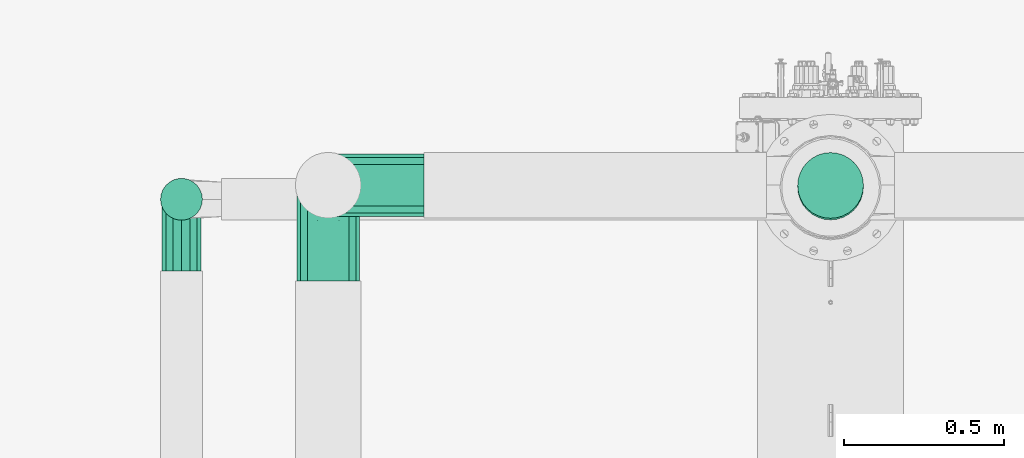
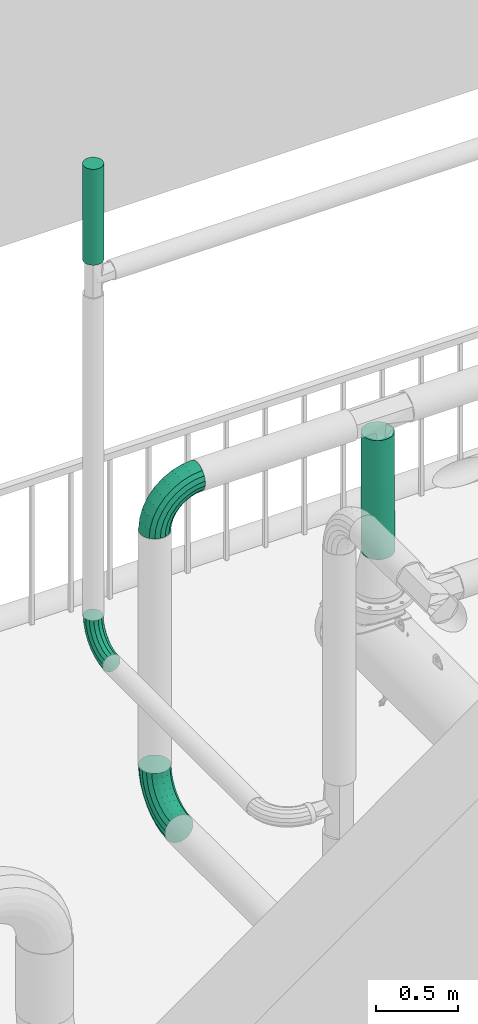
# One storey, part 19 of 28: 3 flow fittings, 2 flow segments.
"""IFC2X3 building model written with IfcOpenShell, lengths in millimetres."""

from ifc_helpers import new_model, entity, si_unit, converted_unit, direction, frame, frame_2d, origin, origin_2d_with_axis, place, context, subcontext, project, spatial, circle, extrude, faceted_brep, source, transform, mapped, material, type_object, type_shapes, element, save


model = new_model("IFC2X3")

# Units and contexts
model_context = context("Model", 3, precision=0.01, world=origin(), true_north=direction((6.123031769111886e-17, 1.0)))
body_context = subcontext(model_context, "Body", "Model", "MODEL_VIEW")
ifc_project = project(units=[si_unit("LENGTHUNIT", "METRE", prefix="MILLI"), converted_unit("PLANEANGLEUNIT", "DEGREE", entity("IfcPlaneAngleMeasure", 0.017453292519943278), si_unit("PLANEANGLEUNIT", "RADIAN"), dimensions=[0, 0, 0, 0, 0, 0, 0]), si_unit("AREAUNIT", "SQUARE_METRE")], contexts=[model_context])

# Site, building, storey
site_placement = place(None, frame((7776.576483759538, 118.3519876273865, 0.0)))
site = spatial("IfcSite", under=ifc_project, at=site_placement, Name="Default", CompositionType="ELEMENT")
building_placement = place(site_placement, origin())
building = spatial("IfcBuilding", under=site, at=building_placement, Name="Bygning (endres i Project Information)", CompositionType="ELEMENT")
storey_placement = place(building_placement, frame((0.0, 0.0, 14000.0)))
storey = spatial("IfcBuildingStorey", under=building, at=storey_placement, Name="Plan U1 - Arbeid", CompositionType="ELEMENT", Elevation=14000.000000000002)

# Flow segments
ifc_material = material(Name="SS 2343 Rustfritt stål, prosessrør, generisk")
pipe_segment_type = type_object("IfcPipeSegmentType", Name="Pipe Types:AISI 304L Rustfritt", PredefinedType="NOTDEFINED", material=ifc_material)
flow_segment_1_placement = place(storey_placement, origin())
element("IfcFlowSegment", 1, at=flow_segment_1_placement, inside=storey, type_object=pipe_segment_type, Name="Pipe Types:AISI 304L Rustfritt", ObjectType="Pipe Types:AISI 304L Rustfritt", context=body_context, shape_type="SweptSolid", body=[
    extrude(circle(Radius=103.0, at=frame_2d((0.0, -4.331404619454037e-12), x_axis=(1.0, 0.0))), frame((27667.696048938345, 28424.418287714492, 1551.589620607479), z_axis=(0.0, 0.005431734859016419, 0.9999852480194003), x_axis=(-1.0, 0.0, 0.0)), (0.0, 0.0, 1.0), 886.435507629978),
])
flow_segment_2_placement = place(storey_placement, origin())
element("IfcFlowSegment", 2, at=flow_segment_2_placement, inside=storey, type_object=pipe_segment_type, Name="Pipe Types:AISI 304L Rustfritt", ObjectType="Pipe Types:AISI 304L Rustfritt", context=body_context, shape_type="SweptSolid", body=[
    extrude(circle(Radius=65.5, at=origin_2d_with_axis()), frame((25634.00137486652, 28385.82368856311, 4459.5), z_axis=(0.0, 0.0, 1.0), x_axis=(-1.0, 0.0, 0.0)), (0.0, 0.0, 1.0), 715.9999999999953),
])

# Flow fittings
pipe_fitting_type_1 = type_object("IfcPipeFittingType", Name="VA_prosess_rustfritt_bend_D+100:VA_prosess_rustfritt_bend_D+100", PredefinedType="NOTDEFINED", material=ifc_material)
shared_shape_1 = source(origin(), body_context, "Body", "Brep", [
    faceted_brep([(-221.96387119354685, -92.314112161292, 0.0), (-223.1404097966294, -86.39925317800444, 34.202014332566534), (-300.0, -93.96926207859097, 34.202014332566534), (-300.0, -100.0, 0.0), (-226.52811768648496, -69.36809551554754, 64.27876096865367), (-300.0, -76.60444431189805, 64.27876096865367), (-231.71838729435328, -43.274848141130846, 86.60254037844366), (-300.0, -50.0, 86.60254037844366), (-238.08519550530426, -11.266741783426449, 98.48077530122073), (-300.0, -17.36481776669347, 98.48077530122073), (-244.86061128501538, 22.79557354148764, 98.48077530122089), (-300.0, 17.36481776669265, 98.48077530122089), (-251.22741949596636, 54.80367989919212, 86.60254037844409), (-300.0, 50.0, 86.60254037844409), (-256.41768910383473, 80.89692727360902, 64.27876096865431), (-300.0, 76.60444431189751, 64.27876096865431), (-259.8053969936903, 97.92808493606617, 34.202014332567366), (-300.0, 93.96926207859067, 34.202014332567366), (-260.9819355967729, 103.84294391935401, 0.0), (-300.0, 100.0, 0.0), (-259.8053969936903, 97.92808493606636, -34.20201433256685), (-300.0, 93.96926207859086, -34.20201433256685), (-256.4176891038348, 80.89692727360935, -64.2787609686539), (-300.0, 76.60444431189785, -64.2787609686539), (-251.22741949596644, 54.80367989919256, -86.60254037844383), (-300.0, 50.0, -86.60254037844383), (-244.86061128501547, 22.795573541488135, -98.48077530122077), (-300.0, 17.364817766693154, -98.48077530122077), (-238.08519550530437, -11.26674178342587, -98.48077530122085), (-300.0, -17.36481776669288, -98.48077530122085), (-231.71838729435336, -43.27484814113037, -86.60254037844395), (-300.0, -50.0, -86.60254037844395), (-226.52811768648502, -69.3680955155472, -64.27876096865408), (-300.0, -76.6044443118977, -64.27876096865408), (-223.14040979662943, -86.39925317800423, -34.2020143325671), (-300.0, -93.96926207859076, -34.2020143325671), (-146.9266270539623, -69.55181300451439, 0.0), (-149.2344905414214, -63.98013767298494, 34.202014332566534), (-155.87971860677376, -47.937137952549, 64.27876096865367), (-166.06079867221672, -23.357836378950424, 86.60254037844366), (-178.54974222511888, 6.79314052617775, 98.48077530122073), (-191.8401983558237, 38.87913996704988, 98.48077530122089), (-204.32914190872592, 69.03011687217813, 86.60254037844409), (-214.51022197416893, 93.6094184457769, 64.27876096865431), (-221.15545003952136, 109.65241816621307, 34.202014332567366), (-223.46331352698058, 115.2240934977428, 0.0), (-221.15545003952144, 109.65241816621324, -34.20201433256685), (-214.51022197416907, 93.60941844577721, -64.2787609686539), (-204.3291419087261, 69.03011687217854, -86.60254037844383), (-191.8401983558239, 38.87913996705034, -98.48077530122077), (-178.5497422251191, 6.7931405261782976, -98.48077530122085), (-166.0607986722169, -23.357836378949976, -86.60254037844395), (-155.8797186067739, -47.937137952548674, -64.27876096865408), (-149.23449054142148, -63.98013767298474, -34.2020143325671), (-77.77190679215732, -32.58784492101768, 0.0), (-81.12240526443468, -27.573469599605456, 34.202014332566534), (-90.76978111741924, -13.135151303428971, 64.27876096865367), (-105.5504184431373, 8.985635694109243, 86.60254037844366), (-123.68155424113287, 36.120798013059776, 98.48077530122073), (-142.97630594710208, 64.997434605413, 98.48077530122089), (-161.1074417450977, 92.13259692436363, 86.60254037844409), (-175.88807907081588, 114.253383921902, 64.27876096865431), (-185.53545492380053, 128.69170221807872, 34.202014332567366), (-188.88595339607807, 133.70607753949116, 0.0), (-185.53545492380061, 128.69170221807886, -34.20201433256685), (-175.88807907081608, 114.25338392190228, -64.2787609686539), (-161.10744174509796, 92.132596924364, -86.60254037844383), (-142.97630594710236, 64.99743460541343, -98.48077530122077), (-123.68155424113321, 36.120798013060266, -98.48077530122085), (-105.55041844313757, 8.985635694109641, -86.60254037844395), (-90.76978111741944, -13.135151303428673, -64.27876096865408), (-81.12240526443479, -27.573469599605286, -34.2020143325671), (-17.15728752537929, 17.157287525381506, 0.0), (-21.421663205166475, 21.42166320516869, 34.202014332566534), (-33.70044360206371, 33.700443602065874, 64.27876096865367), (-52.51262658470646, 52.512626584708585, 86.60254037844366), (-75.58918524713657, 75.58918524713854, 98.48077530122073), (-100.14674604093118, 100.14674604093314, 98.48077530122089), (-123.22330470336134, 123.22330470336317, 86.60254037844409), (-142.03548768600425, 142.035487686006, 64.27876096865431), (-154.3142680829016, 154.3142680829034, 34.202014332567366), (-158.578643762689, 158.57864376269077, 0.0), (-154.31426808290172, 154.31426808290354, -34.20201433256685), (-142.03548768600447, 142.03548768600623, -64.2787609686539), (-123.22330470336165, 123.2233047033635, -86.60254037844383), (-100.14674604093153, 100.1467460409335, -98.48077530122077), (-75.58918524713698, 75.58918524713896, -98.48077530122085), (-52.51262658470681, 52.512626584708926, -86.60254037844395), (-33.700443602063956, 33.70044360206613, -64.27876096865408), (-21.42166320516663, 21.421663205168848, -34.2020143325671), (32.58784492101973, 77.77190679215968, 0.0), (27.573469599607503, 81.12240526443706, 34.202014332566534), (13.135151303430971, 90.76978111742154, 64.27876096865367), (-8.985635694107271, 105.55041844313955, 86.60254037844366), (-36.1207980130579, 123.68155424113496, 98.48077530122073), (-64.99743460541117, 142.97630594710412, 98.48077530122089), (-92.13259692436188, 161.10744174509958, 86.60254037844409), (-114.25338392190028, 175.88807907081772, 64.27876096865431), (-128.69170221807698, 185.53545492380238, 34.202014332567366), (-133.70607753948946, 188.8859533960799, 0.0), (-128.69170221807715, 185.5354549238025, -34.20201433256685), (-114.25338392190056, 175.8880790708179, -64.2787609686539), (-92.13259692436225, 161.10744174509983, -86.60254037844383), (-64.99743460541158, 142.9763059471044, -98.48077530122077), (-36.12079801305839, 123.68155424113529, -98.48077530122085), (-8.985635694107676, 105.55041844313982, -86.60254037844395), (13.13515130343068, 90.76978111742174, -64.27876096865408), (27.573469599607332, 81.12240526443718, -34.2020143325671), (69.55181300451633, 146.92662705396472, 0.0), (63.98013767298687, 149.23449054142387, 34.202014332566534), (47.937137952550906, 155.87971860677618, 64.27876096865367), (23.357836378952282, 166.06079867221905, 86.60254037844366), (-6.793140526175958, 178.54974222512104, 98.48077530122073), (-38.879139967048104, 191.8401983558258, 98.48077530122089), (-69.03011687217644, 204.32914190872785, 86.60254037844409), (-93.60941844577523, 214.5102219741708, 64.27876096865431), (-109.65241816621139, 221.15545003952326, 34.202014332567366), (-115.22409349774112, 223.46331352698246, 0.0), (-109.65241816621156, 221.15545003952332, -34.20201433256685), (-93.60941844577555, 214.51022197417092, -64.2787609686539), (-69.03011687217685, 204.32914190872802, -86.60254037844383), (-38.87913996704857, 191.840198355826, -98.48077530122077), (-6.793140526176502, 178.54974222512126, -98.48077530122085), (23.357836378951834, 166.06079867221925, -86.60254037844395), (47.93713795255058, 155.87971860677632, -64.27876096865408), (63.98013767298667, 149.23449054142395, -34.2020143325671), (92.31411216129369, 221.96387119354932, 0.0), (86.39925317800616, 223.1404097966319, 34.202014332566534), (69.36809551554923, 226.52811768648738, 64.27876096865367), (43.27484814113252, 231.71838729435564, 86.60254037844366), (11.266741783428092, 238.08519550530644, 98.48077530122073), (-22.795573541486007, 244.86061128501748, 98.48077530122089), (-54.80367989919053, 251.22741949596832, 86.60254037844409), (-80.89692727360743, 256.4176891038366, 64.27876096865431), (-97.9280849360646, 259.80539699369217, 34.202014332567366), (-103.84294391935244, 260.9819355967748, 0.0), (-97.92808493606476, 259.8053969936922, -34.20201433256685), (-80.89692727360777, 256.41768910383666, -64.2787609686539), (-54.80367989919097, 251.2274194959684, -86.60254037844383), (-22.795573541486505, 244.8606112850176, -98.48077530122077), (11.266741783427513, 238.08519550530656, -98.48077530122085), (43.27484814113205, 231.71838729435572, -86.60254037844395), (69.36809551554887, 226.52811768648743, -64.27876096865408), (86.39925317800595, 223.14040979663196, -34.2020143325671), (100.0, 300.0, 0.0), (93.96926207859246, 300.0, 34.202014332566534), (76.60444431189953, 300.0, 64.27876096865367), (50.0, 300.0, 86.60254037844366), (17.36481776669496, 300.0, 98.48077530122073), (-17.36481776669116, 300.0, 98.48077530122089), (-50.0, 300.0, 86.60254037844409), (-76.60444431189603, 300.0, 64.27876096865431), (-93.9692620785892, 300.0, 34.202014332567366), (-100.0, 300.0, 0.0), (-93.96926207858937, 300.0, -34.20201433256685), (-76.60444431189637, 300.0, -64.2787609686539), (-50.0, 300.0, -86.60254037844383), (-17.364817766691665, 300.0, -98.48077530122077), (17.36481776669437, 300.0, -98.48077530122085), (50.0, 300.0, -86.60254037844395), (76.60444431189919, 300.0, -64.27876096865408), (93.96926207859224, 300.0, -34.2020143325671)], [[[0, 1, 2, 3]], [[1, 4, 5, 2]], [[4, 6, 7, 5]], [[6, 8, 9, 7]], [[8, 10, 11, 9]], [[10, 12, 13, 11]], [[12, 14, 15, 13]], [[14, 16, 17, 15]], [[16, 18, 19, 17]], [[18, 20, 21, 19]], [[20, 22, 23, 21]], [[22, 24, 25, 23]], [[24, 26, 27, 25]], [[26, 28, 29, 27]], [[28, 30, 31, 29]], [[30, 32, 33, 31]], [[32, 34, 35, 33]], [[34, 0, 3, 35]], [[36, 37, 1, 0]], [[37, 38, 4, 1]], [[38, 39, 6, 4]], [[39, 40, 8, 6]], [[40, 41, 10, 8]], [[41, 42, 12, 10]], [[42, 43, 14, 12]], [[43, 44, 16, 14]], [[44, 45, 18, 16]], [[45, 46, 20, 18]], [[46, 47, 22, 20]], [[47, 48, 24, 22]], [[48, 49, 26, 24]], [[49, 50, 28, 26]], [[50, 51, 30, 28]], [[51, 52, 32, 30]], [[52, 53, 34, 32]], [[53, 36, 0, 34]], [[54, 55, 37, 36]], [[55, 56, 38, 37]], [[56, 57, 39, 38]], [[57, 58, 40, 39]], [[58, 59, 41, 40]], [[59, 60, 42, 41]], [[60, 61, 43, 42]], [[61, 62, 44, 43]], [[62, 63, 45, 44]], [[63, 64, 46, 45]], [[64, 65, 47, 46]], [[65, 66, 48, 47]], [[66, 67, 49, 48]], [[67, 68, 50, 49]], [[68, 69, 51, 50]], [[69, 70, 52, 51]], [[70, 71, 53, 52]], [[71, 54, 36, 53]], [[72, 73, 55, 54]], [[73, 74, 56, 55]], [[74, 75, 57, 56]], [[75, 76, 58, 57]], [[76, 77, 59, 58]], [[77, 78, 60, 59]], [[78, 79, 61, 60]], [[79, 80, 62, 61]], [[80, 81, 63, 62]], [[81, 82, 64, 63]], [[82, 83, 65, 64]], [[83, 84, 66, 65]], [[84, 85, 67, 66]], [[85, 86, 68, 67]], [[86, 87, 69, 68]], [[87, 88, 70, 69]], [[88, 89, 71, 70]], [[89, 72, 54, 71]], [[90, 91, 73, 72]], [[91, 92, 74, 73]], [[92, 93, 75, 74]], [[93, 94, 76, 75]], [[94, 95, 77, 76]], [[95, 96, 78, 77]], [[96, 97, 79, 78]], [[97, 98, 80, 79]], [[98, 99, 81, 80]], [[99, 100, 82, 81]], [[100, 101, 83, 82]], [[101, 102, 84, 83]], [[102, 103, 85, 84]], [[103, 104, 86, 85]], [[104, 105, 87, 86]], [[105, 106, 88, 87]], [[106, 107, 89, 88]], [[107, 90, 72, 89]], [[108, 109, 91, 90]], [[109, 110, 92, 91]], [[110, 111, 93, 92]], [[111, 112, 94, 93]], [[112, 113, 95, 94]], [[113, 114, 96, 95]], [[114, 115, 97, 96]], [[115, 116, 98, 97]], [[116, 117, 99, 98]], [[117, 118, 100, 99]], [[118, 119, 101, 100]], [[119, 120, 102, 101]], [[120, 121, 103, 102]], [[121, 122, 104, 103]], [[122, 123, 105, 104]], [[123, 124, 106, 105]], [[124, 125, 107, 106]], [[125, 108, 90, 107]], [[126, 127, 109, 108]], [[127, 128, 110, 109]], [[128, 129, 111, 110]], [[129, 130, 112, 111]], [[130, 131, 113, 112]], [[131, 132, 114, 113]], [[132, 133, 115, 114]], [[133, 134, 116, 115]], [[134, 135, 117, 116]], [[135, 136, 118, 117]], [[136, 137, 119, 118]], [[137, 138, 120, 119]], [[138, 139, 121, 120]], [[139, 140, 122, 121]], [[140, 141, 123, 122]], [[141, 142, 124, 123]], [[142, 143, 125, 124]], [[143, 126, 108, 125]], [[144, 145, 127, 126]], [[145, 146, 128, 127]], [[146, 147, 129, 128]], [[147, 148, 130, 129]], [[148, 149, 131, 130]], [[149, 150, 132, 131]], [[150, 151, 133, 132]], [[151, 152, 134, 133]], [[152, 153, 135, 134]], [[153, 154, 136, 135]], [[154, 155, 137, 136]], [[155, 156, 138, 137]], [[156, 157, 139, 138]], [[157, 158, 140, 139]], [[158, 159, 141, 140]], [[159, 160, 142, 141]], [[160, 161, 143, 142]], [[161, 144, 126, 143]], [[3, 2, 5, 7, 9, 11, 13, 15, 17, 19, 21, 23, 25, 27, 29, 31, 33, 35]], [[161, 160, 159, 158, 157, 156, 155, 154, 153, 152, 151, 150, 149, 148, 147, 146, 145, 144]]]),
])
type_shapes(pipe_fitting_type_1, [shared_shape_1])
for number, where, z_axis, x_axis in (
    (3, (26093.826249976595, 28429.85394005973, 2552.2960799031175), (0.0, -1.0, 0.0), (-1.0, 0.0, 0.0)),
    (4, (26093.826249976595, 28429.853940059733, 203.0), (-1.0, 0.0, 0.0), (0.0, 0.0, -1.0)),
):
    element("IfcFlowFitting", number, at=place(storey_placement, frame(where, z_axis=z_axis, x_axis=x_axis)), inside=storey, type_object=pipe_fitting_type_1, material=ifc_material, Name="VA_prosess_rustfritt_bend_D+100:VA_prosess_rustfritt_bend_D+100", ObjectType="VA_prosess_rustfritt_bend_D+100:VA_prosess_rustfritt_bend_D+100", context=body_context, shape_type="MappedRepresentation", body=[
        mapped(shared_shape_1, transform((0.0, 0.0, 0.0), scale=1.0)),
    ])
pipe_fitting_type_2 = type_object("IfcPipeFittingType", Name="VA_prosess_rustfritt_bend_D+100:VA_prosess_rustfritt_bend_D+100", PredefinedType="NOTDEFINED", material=ifc_material)
shared_shape_2 = source(origin(), body_context, "Body", "Brep", [
    faceted_brep([(-161.02523148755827, -55.291774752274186, 0.0), (-162.4025127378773, -49.25751132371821, 27.117733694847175), (-225.0, -56.310554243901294, 27.117733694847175), (-225.0, -62.50000000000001, 0.0), (-166.26156904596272, -32.34988091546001, 48.86446765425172), (-225.0, -38.968112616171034, 48.86446765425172), (-171.83806698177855, -7.917647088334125, 60.93299451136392), (-225.0, -13.907558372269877, 60.93299451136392), (-178.0275127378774, 19.20008660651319, 60.93299451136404), (-225.0, 13.90755837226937, 60.93299451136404), (-183.60401067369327, 43.632320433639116, 48.86446765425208), (-225.0, 38.96811261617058, 48.86446765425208), (-187.46306698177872, 60.53995084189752, 27.117733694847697), (-225.0, 56.31055424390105, 27.117733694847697), (-188.8403482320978, 66.57421427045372, 0.0), (-225.0, 62.50000000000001, 0.0), (-187.46306698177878, 60.53995084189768, -27.117733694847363), (-225.0, 56.31055424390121, -27.117733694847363), (-183.60401067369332, 43.63232043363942, -48.86446765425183), (-225.0, 38.96811261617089, -48.86446765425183), (-178.0275127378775, 19.20008660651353, -60.932994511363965), (-225.0, 13.90755837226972, -60.932994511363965), (-171.8380669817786, -7.917647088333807, -60.932994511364), (-225.0, -13.907558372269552, -60.932994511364), (-166.26156904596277, -32.34988091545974, -48.864467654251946), (-225.0, -38.96811261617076, -48.864467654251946), (-162.40251273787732, -49.25751132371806, -27.11773369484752), (-225.0, -56.31055424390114, -27.11773369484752), (-100.25842500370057, -34.028549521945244, 0.0), (-102.94392487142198, -28.452051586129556, 27.117733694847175), (-110.46852829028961, -12.82705158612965, 48.86446765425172), (-121.34189526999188, 9.751727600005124, 60.93299451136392), (-133.41042212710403, 34.812281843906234, 60.93299451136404), (-144.28378910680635, 57.39106103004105, 48.86446765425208), (-151.80839252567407, 73.01606103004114, 27.117733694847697), (-154.49389239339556, 78.59255896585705, 0.0), (-151.80839252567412, 73.01606103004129, -27.117733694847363), (-144.28378910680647, 57.391061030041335, -48.86446765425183), (-133.4104221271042, 34.812281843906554, -60.932994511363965), (-121.34189526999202, 9.751727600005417, -60.932994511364), (-110.46852829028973, -12.827051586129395, -48.864467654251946), (-102.94392487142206, -28.452051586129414, -27.11773369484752), (-45.74668196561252, 0.22344879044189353, 0.0), (-49.60573827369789, 5.06255234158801, 27.117733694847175), (-60.4185737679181, 18.621419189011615, 48.86446765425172), (-76.04357376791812, 38.2145494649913, 60.93299451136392), (-93.3860153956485, 59.96128342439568, 60.93299451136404), (-109.01101539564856, 79.5544137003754, 48.86446765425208), (-119.8238508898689, 93.11328054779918, 27.117733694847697), (-123.68290719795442, 97.95238409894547, 0.0), (-119.82385088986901, 93.11328054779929, -27.117733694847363), (-109.01101539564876, 79.55441370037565, -48.86446765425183), (-93.38601539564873, 59.96128342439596, -60.932994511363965), (-76.04357376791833, 38.214549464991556, -60.932994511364), (-60.418573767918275, 18.62141918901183, -48.864467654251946), (-49.60573827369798, 5.06255234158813, -27.11773369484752), (-0.22344879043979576, 45.7466819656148, 0.0), (-5.062552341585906, 49.60573827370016, 27.117733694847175), (-18.621419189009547, 60.41857376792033, 48.86446765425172), (-38.2145494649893, 76.04357376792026, 60.93299451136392), (-59.96128342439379, 93.38601539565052, 60.93299451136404), (-79.55441370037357, 109.01101539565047, 48.86446765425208), (-93.11328054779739, 119.82385088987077, 27.117733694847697), (-97.9523840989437, 123.6829071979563, 0.0), (-93.1132805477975, 119.82385088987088, -27.117733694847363), (-79.55441370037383, 109.01101539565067, -48.86446765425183), (-59.96128342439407, 93.38601539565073, -60.932994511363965), (-38.21454946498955, 76.04357376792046, -60.932994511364), (-18.621419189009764, 60.418573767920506, -48.864467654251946), (-5.062552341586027, 49.60573827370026, -27.11773369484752), (34.02854952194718, 100.25842500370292, 0.0), (28.452051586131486, 102.94392487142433, 27.117733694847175), (12.827051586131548, 110.4685282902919, 48.86446765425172), (-9.751727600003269, 121.34189526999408, 60.93299451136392), (-34.81228184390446, 133.4104221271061, 60.93299451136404), (-57.39106103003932, 144.28378910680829, 48.86446765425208), (-73.01606103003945, 151.80839252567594, 27.117733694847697), (-78.59255896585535, 154.4938923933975, 0.0), (-73.0160610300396, 151.80839252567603, -27.117733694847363), (-57.3910610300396, 144.28378910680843, -48.86446765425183), (-34.81228184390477, 133.41042212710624, -60.932994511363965), (-9.751727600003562, 121.34189526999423, -60.932994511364), (12.827051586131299, 110.46852829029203, -48.864467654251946), (28.452051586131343, 102.9439248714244, -27.11773369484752), (55.29177475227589, 161.0252314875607, 0.0), (49.257511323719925, 162.40251273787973, 27.117733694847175), (32.34988091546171, 166.2615690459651, 48.86446765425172), (7.917647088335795, 171.8380669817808, 60.93299451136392), (-19.200086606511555, 178.02751273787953, 60.93299451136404), (-43.63232043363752, 183.60401067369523, 48.86446765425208), (-60.539950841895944, 187.46306698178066, 27.117733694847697), (-66.57421427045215, 188.84034823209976, 0.0), (-60.53995084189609, 187.46306698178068, -27.117733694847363), (-43.63232043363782, 183.6040106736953, -48.86446765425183), (-19.2000866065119, 178.02751273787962, -60.932994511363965), (7.917647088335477, 171.83806698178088, -60.932994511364), (32.34988091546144, 166.26156904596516, -48.864467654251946), (49.257511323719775, 162.40251273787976, -27.11773369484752), (62.500000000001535, 225.0, 0.0), (56.31055424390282, 225.0, 27.117733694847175), (38.96811261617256, 225.0, 48.86446765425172), (13.9075583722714, 225.0, 60.93299451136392), (-13.907558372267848, 225.0, 60.93299451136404), (-38.96811261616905, 225.0, 48.86446765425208), (-56.310554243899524, 225.0, 27.117733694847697), (-62.49999999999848, 225.0, 0.0), (-56.31055424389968, 225.0, -27.117733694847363), (-38.968112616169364, 225.0, -48.86446765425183), (-13.907558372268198, 225.0, -60.932994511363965), (13.907558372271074, 225.0, -60.932994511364), (38.968112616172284, 225.0, -48.864467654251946), (56.310554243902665, 225.0, -27.11773369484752)], [[[0, 1, 2, 3]], [[1, 4, 5, 2]], [[4, 6, 7, 5]], [[6, 8, 9, 7]], [[8, 10, 11, 9]], [[10, 12, 13, 11]], [[12, 14, 15, 13]], [[14, 16, 17, 15]], [[16, 18, 19, 17]], [[18, 20, 21, 19]], [[20, 22, 23, 21]], [[22, 24, 25, 23]], [[24, 26, 27, 25]], [[26, 0, 3, 27]], [[28, 29, 1, 0]], [[29, 30, 4, 1]], [[30, 31, 6, 4]], [[31, 32, 8, 6]], [[32, 33, 10, 8]], [[33, 34, 12, 10]], [[34, 35, 14, 12]], [[35, 36, 16, 14]], [[36, 37, 18, 16]], [[37, 38, 20, 18]], [[38, 39, 22, 20]], [[39, 40, 24, 22]], [[40, 41, 26, 24]], [[41, 28, 0, 26]], [[42, 43, 29, 28]], [[43, 44, 30, 29]], [[44, 45, 31, 30]], [[45, 46, 32, 31]], [[46, 47, 33, 32]], [[47, 48, 34, 33]], [[48, 49, 35, 34]], [[49, 50, 36, 35]], [[50, 51, 37, 36]], [[51, 52, 38, 37]], [[52, 53, 39, 38]], [[53, 54, 40, 39]], [[54, 55, 41, 40]], [[55, 42, 28, 41]], [[56, 57, 43, 42]], [[57, 58, 44, 43]], [[58, 59, 45, 44]], [[59, 60, 46, 45]], [[60, 61, 47, 46]], [[61, 62, 48, 47]], [[62, 63, 49, 48]], [[63, 64, 50, 49]], [[64, 65, 51, 50]], [[65, 66, 52, 51]], [[66, 67, 53, 52]], [[67, 68, 54, 53]], [[68, 69, 55, 54]], [[69, 56, 42, 55]], [[70, 71, 57, 56]], [[71, 72, 58, 57]], [[72, 73, 59, 58]], [[73, 74, 60, 59]], [[74, 75, 61, 60]], [[75, 76, 62, 61]], [[76, 77, 63, 62]], [[77, 78, 64, 63]], [[78, 79, 65, 64]], [[79, 80, 66, 65]], [[80, 81, 67, 66]], [[81, 82, 68, 67]], [[82, 83, 69, 68]], [[83, 70, 56, 69]], [[84, 85, 71, 70]], [[85, 86, 72, 71]], [[86, 87, 73, 72]], [[87, 88, 74, 73]], [[88, 89, 75, 74]], [[89, 90, 76, 75]], [[90, 91, 77, 76]], [[91, 92, 78, 77]], [[92, 93, 79, 78]], [[93, 94, 80, 79]], [[94, 95, 81, 80]], [[95, 96, 82, 81]], [[96, 97, 83, 82]], [[97, 84, 70, 83]], [[98, 99, 85, 84]], [[99, 100, 86, 85]], [[100, 101, 87, 86]], [[101, 102, 88, 87]], [[102, 103, 89, 88]], [[103, 104, 90, 89]], [[104, 105, 91, 90]], [[105, 106, 92, 91]], [[106, 107, 93, 92]], [[107, 108, 94, 93]], [[108, 109, 95, 94]], [[109, 110, 96, 95]], [[110, 111, 97, 96]], [[111, 98, 84, 97]], [[3, 2, 5, 7, 9, 11, 13, 15, 17, 19, 21, 23, 25, 27]], [[111, 110, 109, 108, 107, 106, 105, 104, 103, 102, 101, 100, 99, 98]]]),
])
type_shapes(pipe_fitting_type_2, [shared_shape_2])
flow_fitting_placement = place(storey_placement, frame((25634.001374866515, 28385.760293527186, 1580.0), z_axis=(-1.0, 0.0, 0.0), x_axis=(0.0, 0.0, -1.0)))
element("IfcFlowFitting", 5, at=flow_fitting_placement, inside=storey, type_object=pipe_fitting_type_2, material=ifc_material, Name="VA_prosess_rustfritt_bend_D+100:VA_prosess_rustfritt_bend_D+100", ObjectType="VA_prosess_rustfritt_bend_D+100:VA_prosess_rustfritt_bend_D+100", context=body_context, shape_type="MappedRepresentation", body=[
    mapped(shared_shape_2, transform((0.0, 0.0, 0.0), scale=1.0)),
])

save(model, "model.ifc")
